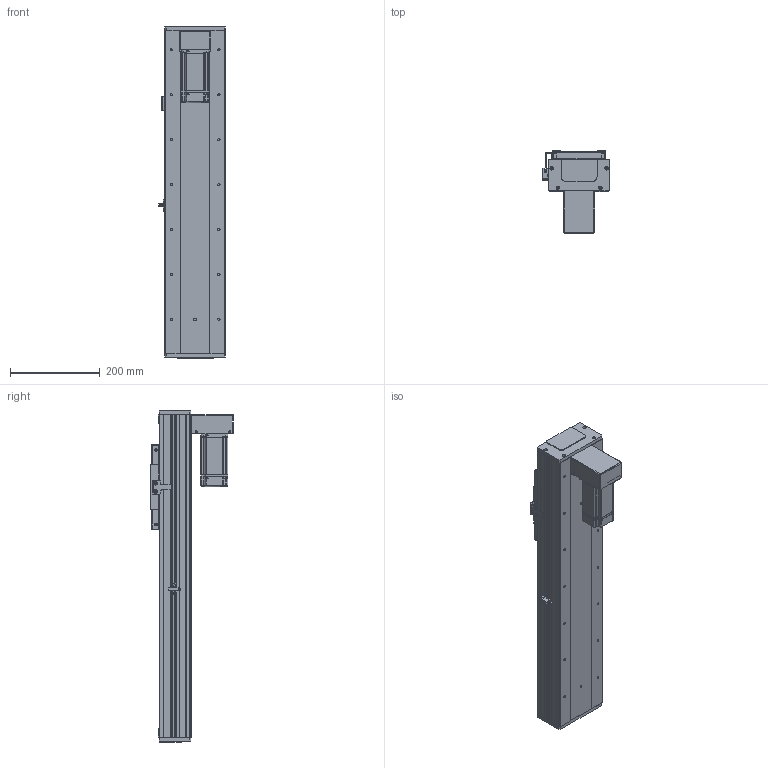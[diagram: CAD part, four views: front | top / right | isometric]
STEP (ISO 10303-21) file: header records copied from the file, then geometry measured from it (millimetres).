
FILE_DESCRIPTION (( 'STEP AP203' ), '1' );
FILE_NAME ('RY140F-L2020-300-BK.SLDASM_450.step', '2021-03-02T08:26:39', ( '盈信电脑' ), ( '东莞市道滘镇水果街19号' ), 'SwSTEP 2.0', 'SolidWorks 2012', '' );
FILE_SCHEMA (( 'CONFIG_CONTROL_DESIGN' ));
Length unit declared in the file: millimetre
Products named in the file (21): RY140F-L2020-300-BK.SLDASM_450; RY140F-直连型材铝滑块(16丝杆); RY140F-狟殏萇儂欶(400W); 滅袉蝶18-10; RY140F-詩湍嘐隅輸; RY140F-672覜茼んえ; RY140F-詩湍揤え; RY140F-狟殏萇儂啣(400W M5); 侐源滅袉蝶; 15; 覜茼ん672; 侂狟400W侜督萇儂; RY140F-后盖板(铝件）; RY100F-詩湍揤踡謫; RY140F-詩湍幗謫粣; 藻笠沭; RY140F-滅鳥奻裔; RY140F-300-BK蛌殏詩湍_450; RY140F-直连型材铝滑块连接座; RY140F-300-BK倰第奻裔啣_450; RY140F-300-BK倰第菁釱_450
Assembly tree (26 placements, depth 3):
  RY140F-L2020-300-BK.SLDASM_450
    RY140F-300-BK倰第菁釱_450
    RY140F-300-BK倰第奻裔啣_450  x2
    RY140F-300-BK蛌殏詩湍_450
    RY140F-直连型材铝滑块连接座
    RY140F-滅鳥奻裔
    RY140F-詩湍幗謫粣
    藻笠沭  x2
    RY100F-詩湍揤踡謫
    RY140F-后盖板(铝件）  x2
    侂狟400W侜督萇儂
      15
    覜茼ん672
    RY140F-672覜茼んえ
    RY140F-詩湍揤え  x2
    侐源滅袉蝶  x2
    RY140F-狟殏萇儂啣(400W M5)
    RY140F-狟殏萇儂欶(400W)
    RY140F-詩湍嘐隅輸
    滅袉蝶18-10  x2
    RY140F-直连型材铝滑块(16丝杆)
Bounding box: 148.7 x 184.5 x 739 mm (x, y, z)
Volume: 3187165.3 mm3; surface area: 1122915.4 mm2
Topology: 25 solids, 25 shells, 1976 faces, 5412 edges, 3462 vertices
Faces by surface type: cylinder 951, plane 811, cone 188, bspline 22, torus 4
Entity records: 62336 total; most frequent: CARTESIAN_POINT 13165, DIRECTION 9899, ORIENTED_EDGE 9676, EDGE_CURVE 4838, AXIS2_PLACEMENT_3D 3524, VERTEX_POINT 3166, LINE 2851, VECTOR 2851
